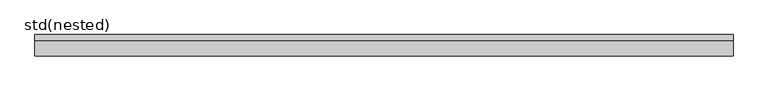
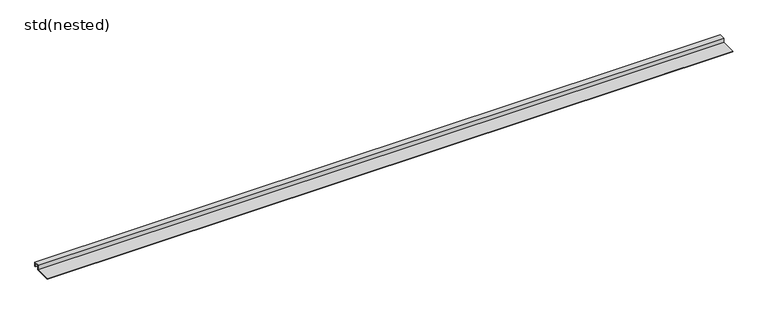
"""IFC4 building model written with IfcOpenShell, lengths in millimetres: sanitary terminal geometry, ZZZ_do not use_PF_ST_UN_ShowerStep_ACO : std(nested)."""

from ifc_helpers import new_model, si_unit, origin, place, context, project, spatial, faceted_brep, source, transform, mapped, element, save


def std_nested_e39b0fdb(model_context):
    return source(origin(), model_context, "Body", "Brep", [
        faceted_brep([(0.0, -1.0, -10.0), (0.0, -1.0, -1.0), (0.0, -11.0004219, -1.0), (0.0, -11.0004219, -11.0), (0.0, -46.0004219, -11.0), (0.0, -46.0004219, -10.0), (0.0, -12.0076915, -10.0), (0.0, -12.0076915, 0.0), (0.0, 0.0, 0.0), (0.0, 0.0, -10.0), (1490.0, 0.0, -36.0), (1490.0, -1.0, -36.0), (1490.0, 0.0, 0.0), (1490.0, -12.0076915, 0.0), (1490.0, -12.0076915, -10.0), (1490.0, -46.0004219, -10.0), (1490.0, -46.0004219, -11.0), (1490.0, -11.0004219, -11.0), (1490.0, -11.0004219, -1.0), (1490.0, -1.0, -1.0)], [[[0, 1, 2, 3, 4, 5, 6, 7, 8, 9]], [[0, 9, 10, 11]], [[9, 8, 12, 10]], [[8, 7, 13, 12]], [[7, 6, 14, 13]], [[6, 5, 15, 14]], [[5, 4, 16, 15]], [[4, 3, 17, 16]], [[3, 2, 18, 17]], [[2, 1, 19, 18]], [[1, 0, 11, 19]], [[11, 10, 12, 13, 14, 15, 16, 17, 18, 19]]]),
    ])


if __name__ == "__main__":
    model = new_model("IFC4")
    model_context = context("Model", 3, world=origin())
    ifc_project = project(units=[si_unit("LENGTHUNIT", "METRE", prefix="MILLI")], contexts=[model_context])
    site = spatial("IfcSite", under=ifc_project)
    building = spatial("IfcBuilding", under=site)
    placement = place(None, origin())
    std_nested_shape = std_nested_e39b0fdb(model_context)
    element("IfcSanitaryTerminal", 1, ObjectType="ZZZ_do not use_PF_ST_UN_ShowerStep_ACO : std(nested)", at=placement, inside=building, context=model_context, shape_type="MappedRepresentation", body=[
        mapped(std_nested_shape, transform((0.0, 0.0, 0.0), x_axis=(1.0, 0.0, 0.0), y_axis=(0.0, 1.0, 0.0), z_axis=(0.0, 0.0, 1.0))),
    ])
    save(model, "model.ifc")
